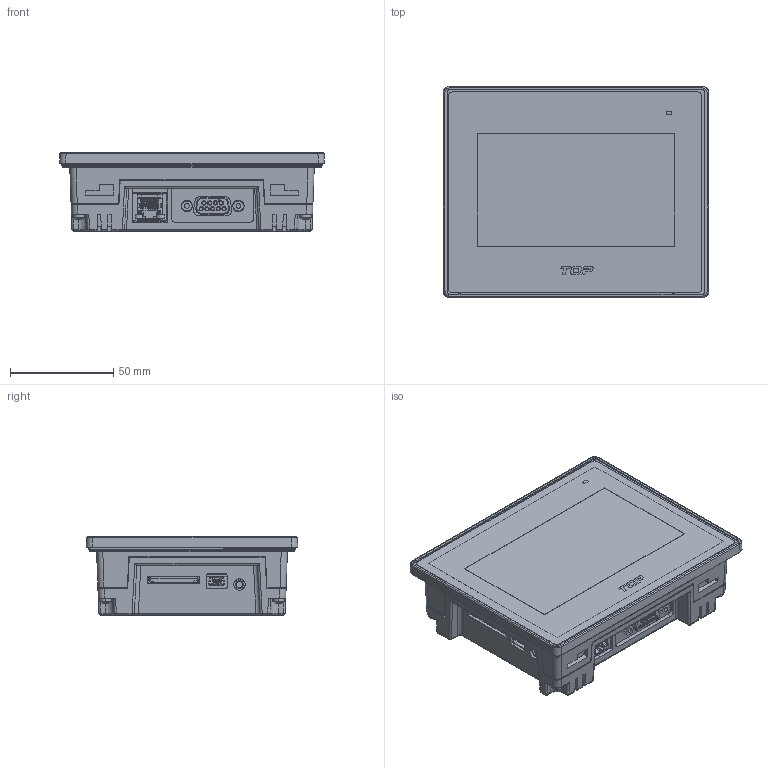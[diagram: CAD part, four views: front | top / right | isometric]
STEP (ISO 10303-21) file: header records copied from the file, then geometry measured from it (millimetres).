
FILE_DESCRIPTION((''),'2;1');
FILE_NAME('3D_TOPRE04','2018-06-27T',('bckim'),(''),'CREO PARAMETRIC BY PTC INC, 2016260','CREO PARAMETRIC BY PTC INC, 2016260','');
FILE_SCHEMA(('CONFIG_CONTROL_DESIGN'));
Products named in the file (1): 3D_TOPRE04
Bounding box: 128.6 x 102.6 x 38 mm (x, y, z)
Volume: 383316.1 mm3; surface area: 67935.9 mm2
Topology: 1 solids, 19 shells, 3732 faces, 10270 edges, 6654 vertices
Faces by surface type: plane 2824, cylinder 583, bspline 171, cone 76, torus 32, sphere 28, extrusion 18
Entity records: 126012 total; most frequent: CARTESIAN_POINT 32369, ORIENTED_EDGE 20540, DIRECTION 17565, EDGE_CURVE 10270, VECTOR 8405, LINE 8387, VERTEX_POINT 6654, AXIS2_PLACEMENT_3D 4580
